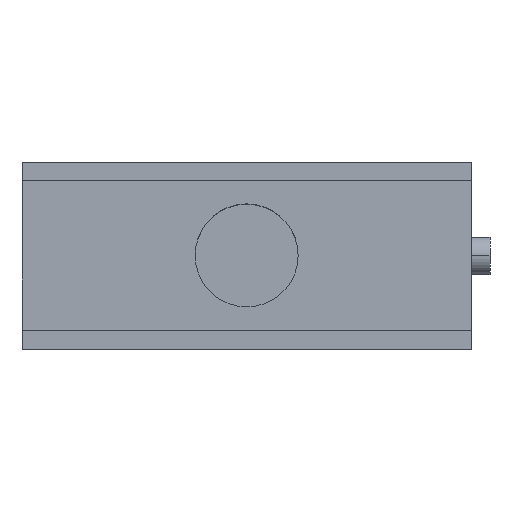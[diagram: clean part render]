
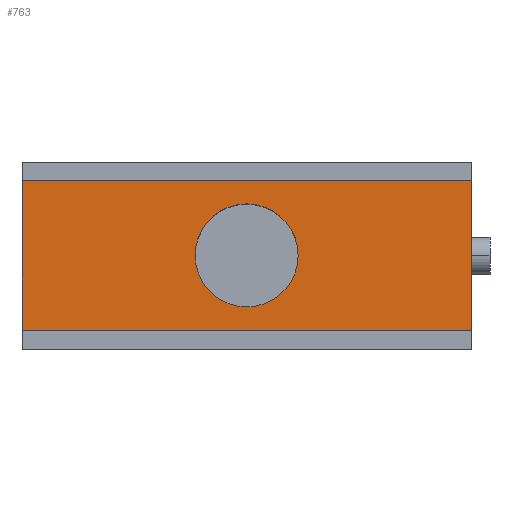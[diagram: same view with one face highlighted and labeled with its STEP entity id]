
A CAD part, top view. The second image highlights one B-rep face of the part: STEP entity #763.
In plain terms, the highlighted planar face has unit normal (0, 0, 1).
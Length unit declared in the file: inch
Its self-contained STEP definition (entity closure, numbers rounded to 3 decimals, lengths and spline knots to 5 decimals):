
#313 = LINE ( 'NONE', #316, #396 ) ;
#314 = DIRECTION ( 'NONE',  ( -1., 0., 0. ) ) ;
#315 = DIRECTION ( 'NONE',  ( 0., 0., -1. ) ) ;
#316 = CARTESIAN_POINT ( 'NONE',  ( -2.87539, 0., 4.75 ) ) ;
#317 = DIRECTION ( 'NONE',  ( 1., 0., 0. ) ) ;
#318 = VECTOR ( 'NONE', #317, 39.37008 ) ;
#319 = CARTESIAN_POINT ( 'NONE',  ( -2.87539, 1., 4.75 ) ) ;
#320 = LINE ( 'NONE', #319, #318 ) ;
#321 = CARTESIAN_POINT ( 'NONE',  ( 3., 1., 4.75 ) ) ;
#393 = CARTESIAN_POINT ( 'NONE',  ( 0., 0., 4.75 ) ) ;
#395 = DIRECTION ( 'NONE',  ( 1., 0., 0. ) ) ;
#396 = VECTOR ( 'NONE', #395, 39.37008 ) ;
#400 = CARTESIAN_POINT ( 'NONE',  ( 1.84375, 0.5, 4.75 ) ) ;
#411 = DIRECTION ( 'NONE',  ( 0., -1., 0. ) ) ;
#412 = VECTOR ( 'NONE', #411, 39.37008 ) ;
#413 = CARTESIAN_POINT ( 'NONE',  ( 0., 1., 4.75 ) ) ;
#414 = LINE ( 'NONE', #413, #412 ) ;
#423 = CARTESIAN_POINT ( 'NONE',  ( 3., 0., 4.75 ) ) ;
#425 = AXIS2_PLACEMENT_3D ( 'NONE', #426, #315, #314 ) ;
#426 = CARTESIAN_POINT ( 'NONE',  ( -2.87539, 1., 4.75 ) ) ;
#427 = PLANE ( 'NONE',  #425 ) ;
#428 = FACE_BOUND ( 'NONE', #753, .T. ) ;
#429 = FACE_OUTER_BOUND ( 'NONE', #764, .T. ) ;
#468 = DIRECTION ( 'NONE',  ( 0., -1., 0. ) ) ;
#469 = VECTOR ( 'NONE', #468, 39.37008 ) ;
#470 = DIRECTION ( 'NONE',  ( 1., 0., 0. ) ) ;
#471 = DIRECTION ( 'NONE',  ( 0., 0., 1. ) ) ;
#472 = AXIS2_PLACEMENT_3D ( 'NONE', #495, #471, #470 ) ;
#473 = CARTESIAN_POINT ( 'NONE',  ( 0., 1., 4.75 ) ) ;
#495 = CARTESIAN_POINT ( 'NONE',  ( 1.5, 0.5, 4.75 ) ) ;
#496 = CIRCLE ( 'NONE', #472, 0.34375 ) ;
#506 = CARTESIAN_POINT ( 'NONE',  ( 3., 1., 4.75 ) ) ;
#507 = LINE ( 'NONE', #506, #469 ) ;
#590 = DIRECTION ( 'NONE',  ( 0., 0., 1. ) ) ;
#591 = DIRECTION ( 'NONE',  ( 1., 0., 0. ) ) ;
#601 = CIRCLE ( 'NONE', #640, 0.34375 ) ;
#632 = CARTESIAN_POINT ( 'NONE',  ( 1.5, 0.5, 4.75 ) ) ;
#640 = AXIS2_PLACEMENT_3D ( 'NONE', #632, #590, #591 ) ;
#641 = CARTESIAN_POINT ( 'NONE',  ( 1.15625, 0.5, 4.75 ) ) ;
#743 = VERTEX_POINT ( 'NONE', #423 ) ;
#747 = VERTEX_POINT ( 'NONE', #400 ) ;
#753 = EDGE_LOOP ( 'NONE', ( #754, #857 ) ) ;
#754 = ORIENTED_EDGE ( 'NONE', *, *, #856, .F. ) ;
#763 = ADVANCED_FACE ( 'NONE', ( #429, #428 ), #427, .F. ) ;
#764 = EDGE_LOOP ( 'NONE', ( #765, #842, #805, #807 ) ) ;
#765 = ORIENTED_EDGE ( 'NONE', *, *, #766, .T. ) ;
#766 = EDGE_CURVE ( 'NONE', #767, #743, #313, .T. ) ;
#767 = VERTEX_POINT ( 'NONE', #393 ) ;
#803 = VERTEX_POINT ( 'NONE', #321 ) ;
#805 = ORIENTED_EDGE ( 'NONE', *, *, #806, .F. ) ;
#806 = EDGE_CURVE ( 'NONE', #843, #803, #320, .T. ) ;
#807 = ORIENTED_EDGE ( 'NONE', *, *, #808, .T. ) ;
#808 = EDGE_CURVE ( 'NONE', #843, #767, #414, .T. ) ;
#842 = ORIENTED_EDGE ( 'NONE', *, *, #847, .F. ) ;
#843 = VERTEX_POINT ( 'NONE', #473 ) ;
#847 = EDGE_CURVE ( 'NONE', #803, #743, #507, .T. ) ;
#856 = EDGE_CURVE ( 'NONE', #747, #880, #496, .T. ) ;
#857 = ORIENTED_EDGE ( 'NONE', *, *, #874, .F. ) ;
#874 = EDGE_CURVE ( 'NONE', #880, #747, #601, .T. ) ;
#880 = VERTEX_POINT ( 'NONE', #641 ) ;
